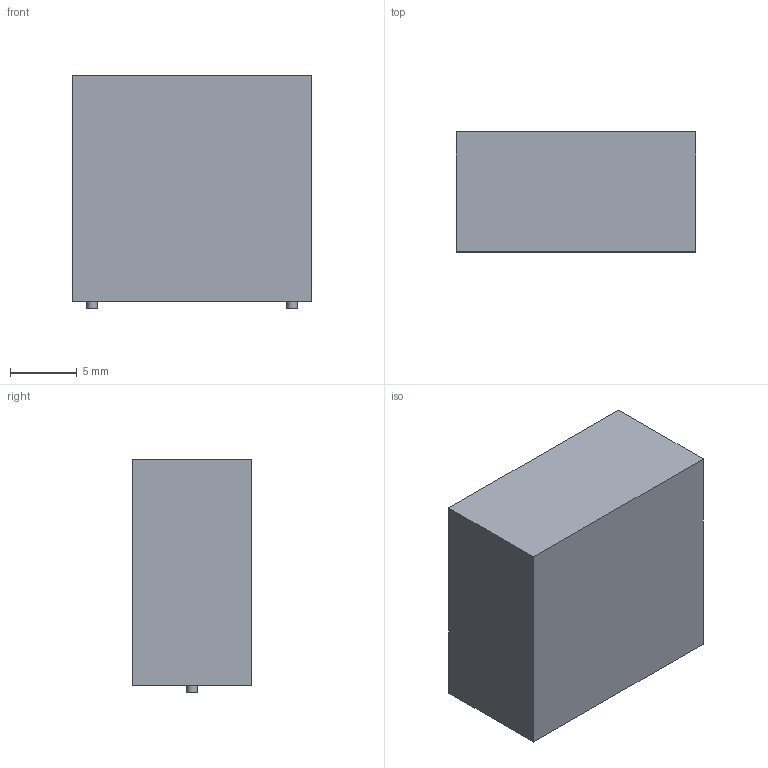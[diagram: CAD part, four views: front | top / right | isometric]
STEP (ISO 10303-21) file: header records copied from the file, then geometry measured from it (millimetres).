
FILE_DESCRIPTION(('Open CASCADE Model'),'2;1');
FILE_NAME('Open CASCADE Shape Model','2026-09-26T00:00:00',('Author'),( 'Open CASCADE'),'Open CASCADE STEP processor 7.9','Open CASCADE 7.9' ,'Unknown');
FILE_SCHEMA(('AUTOMOTIVE_DESIGN { 1 0 10303 214 1 1 1 1 }'));
Length unit declared in the file: millimetre
Products named in the file (4): Open CASCADE STEP translator 7.9 3; Open CASCADE STEP translator 7.9 3.1; Open CASCADE STEP translator 7.9 3.2; Open CASCADE STEP translator 7.9 3.3
Assembly tree (3 placements, depth 2):
  Open CASCADE STEP translator 7.9 3
    Open CASCADE STEP translator 7.9 3.1
    Open CASCADE STEP translator 7.9 3.2
    Open CASCADE STEP translator 7.9 3.3
Bounding box: 18 x 9 x 17.5 mm (x, y, z)
Volume: 2754.7 mm3; surface area: 1247.5 mm2
Topology: 3 solids, 3 shells, 12 faces, 18 edges, 12 vertices
Faces by surface type: plane 10, cylinder 2
Full cylindrical faces by diameter (mm): 0.8 x2
Entity records: 560 total; most frequent: DIRECTION 90, CARTESIAN_POINT 82, LINE 46, VECTOR 46, ORIENTED_EDGE 36, PCURVE 36, DEFINITIONAL_REPRESENTATION 36, AXIS2_PLACEMENT_3D 20
